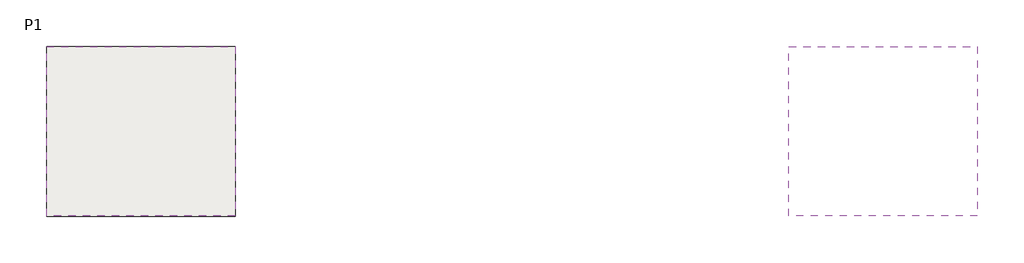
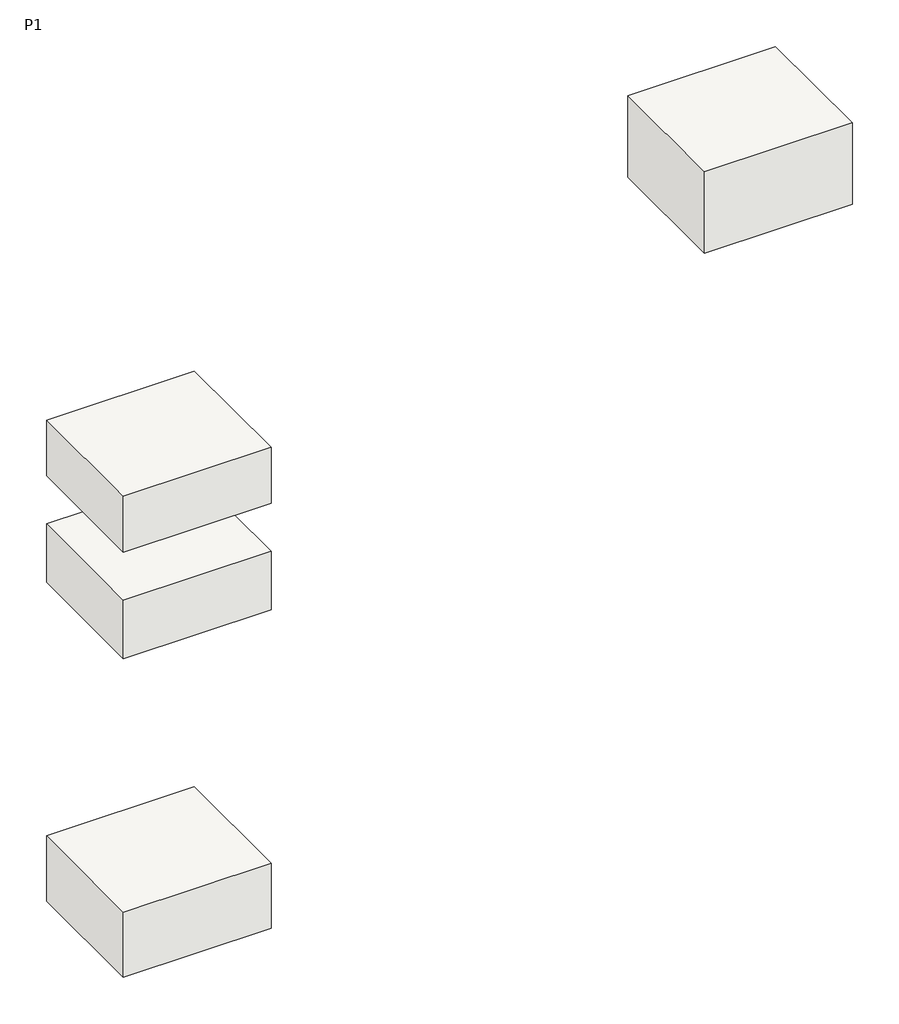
# One storey: 4 slabs.
"""IFC4 building model written with IfcOpenShell, lengths in millimetres."""

from ifc_helpers import new_model, si_unit, frame, origin, place, context, project, spatial, polyline, outline, extrude, element, save

model = new_model("IFC4")

# Units and contexts
model_context = context("Model", 3, world=origin())
ifc_project = project(units=[si_unit("LENGTHUNIT", "METRE", prefix="MILLI")], contexts=[model_context])

# Site, building, storey
site = spatial("IfcSite", under=ifc_project)
building = spatial("IfcBuilding", under=site)
storey = spatial("IfcBuildingStorey", under=building, Name="P1", Elevation=3000.0)

# Slabs
placement = place(None, origin())
element("IfcSlab", 1, ObjectType="INTERCAPEDINE VENTILATA H110", at=placement, inside=storey, context=model_context, shape_type="SweptSolid", body=[
    extrude(outline(polyline([(-4256.1937558, 1686.0689128), (-4256.1937558, -1013.9310872), (-7256.1937558, -1013.9310872), (-7256.1937558, 1686.0689128), (-4256.1937558, 1686.0689128)])), frame((0.0, 0.0, 10330.0000022), z_axis=(0.0, 0.0, 1.0), x_axis=(1.0, 0.0, 0.0)), (0.0, 0.0, 1.0), 1200.0),
])
element("IfcSlab", 2, ObjectType="INTERCAPEDINE VENTILATA H115", at=placement, inside=storey, context=model_context, shape_type="SweptSolid", body=[
    extrude(outline(polyline([(-4256.1937558, 1686.0689128), (-4256.1937558, -1013.9310872), (-7256.1937558, -1013.9310872), (-7256.1937558, 1686.0689128), (-4256.1937558, 1686.0689128)])), frame((0.0, 0.0, 8050.0000022), z_axis=(0.0, 0.0, 1.0), x_axis=(1.0, 0.0, 0.0)), (0.0, 0.0, 1.0), 1250.0),
])
element("IfcSlab", 3, ObjectType="INTERCAPEDINE VENTILATA H130", at=placement, inside=storey, context=model_context, shape_type="SweptSolid", body=[
    extrude(outline(polyline([(-4256.1937558, 1686.0689128), (-4256.1937558, -1013.9310872), (-7256.1937558, -1013.9310872), (-7256.1937558, 1686.0689128), (-4256.1937558, 1686.0689128)])), frame((0.0, 0.0, 1210.0000022), z_axis=(0.0, 0.0, 1.0), x_axis=(1.0, 0.0, 0.0)), (0.0, 0.0, 1.0), 1400.0),
])
element("IfcSlab", 4, ObjectType="INTERCAPEDINE VENTILATA H165", at=placement, inside=storey, context=model_context, shape_type="SweptSolid", body=[
    extrude(outline(polyline([(7543.8062442, 1686.0689128), (7543.8062442, -1013.9310872), (4543.8062442, -1013.9310872), (4543.8062442, 1686.0689128), (7543.8062442, 1686.0689128)])), frame((0.0, 0.0, 12610.0000022), z_axis=(0.0, 0.0, 1.0), x_axis=(1.0, 0.0, 0.0)), (0.0, 0.0, 1.0), 1750.0),
])

save(model, "model.ifc")
